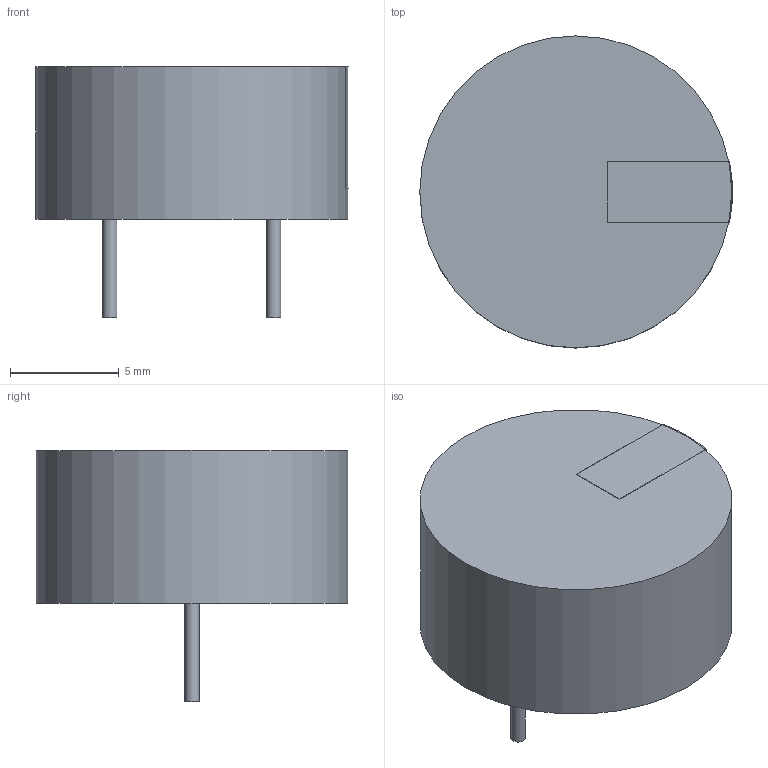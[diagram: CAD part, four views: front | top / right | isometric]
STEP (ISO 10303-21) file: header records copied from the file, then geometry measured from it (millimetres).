
FILE_DESCRIPTION(('STEP AP214'),'1');
FILE_NAME('IC2_NORPS-12_ADP','2026-02-14T09:41:36',(''),(''),'','','');
FILE_SCHEMA(('AUTOMOTIVE_DESIGN'));
Length unit declared in the file: millimetre
Products named in the file (1): product
Bounding box: 14.37 x 14.35 x 11.55 mm (x, y, z)
Volume: 1137.8 mm3; surface area: 724 mm2
Topology: 4 solids, 4 shells, 17 faces, 27 edges, 18 vertices
Faces by surface type: plane 12, cylinder 5
Full cylindrical faces by diameter (mm): 0.66 x2, 14.351 x1
Entity records: 552 total; most frequent: DIRECTION 76, CARTESIAN_POINT 48, ORIENTED_EDGE 48, AXIS2_PLACEMENT_3D 31, EDGE_CURVE 24, EDGE_LOOP 20, VERTEX_POINT 18, PRESENTATION_STYLE_ASSIGNMENT 17
